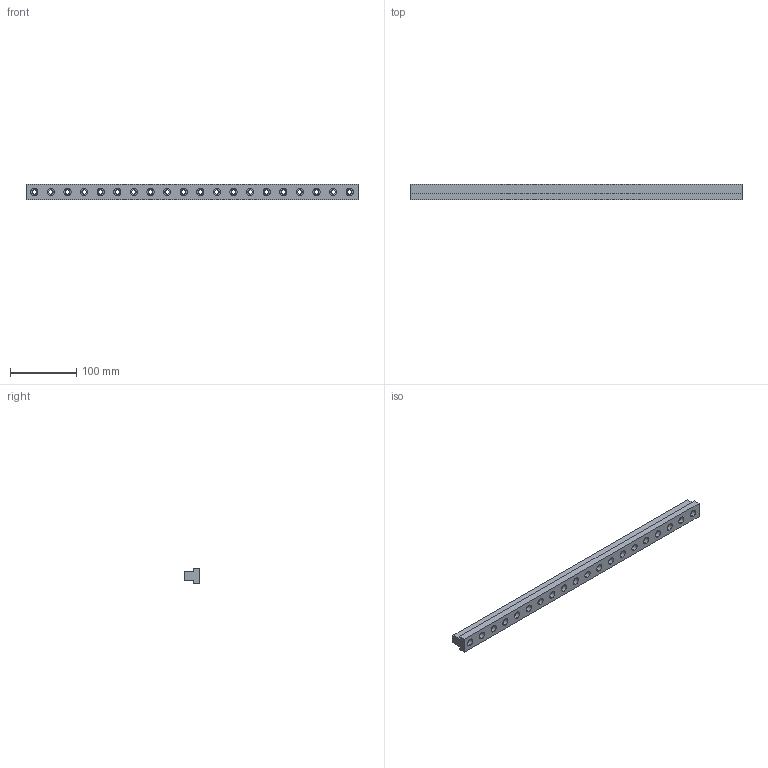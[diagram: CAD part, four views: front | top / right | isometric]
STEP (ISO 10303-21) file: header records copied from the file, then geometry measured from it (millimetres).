
FILE_DESCRIPTION(('CATIA V5 STEP Exchange'),'2;1');
FILE_NAME('C:\Users\Utente\Desktop\IO LAVORO\3D X SITO CF\X SITO\PLASTICA\CF-GT\CF-GT-14-500.stp','2021-02-21T16:16:11+00:00',('none'),('none'),'CATIA Version 5 Release 20 GA (IN-10)','CATIA V5 STEP AP203','none');
FILE_SCHEMA(('CONFIG_CONTROL_DESIGN'));
Length unit declared in the file: millimetre
Products named in the file (1): CF-GT-14-500
Bounding box: 500 x 24 x 24 mm (x, y, z)
Volume: 193306.6 mm3; surface area: 59336 mm2
Topology: 1 solids, 1 shells, 110 faces, 424 edges, 336 vertices
Faces by surface type: cylinder 80, plane 30
Entity records: 5770 total; most frequent: CARTESIAN_POINT 2191, ORIENTED_EDGE 848, DIRECTION 524, EDGE_CURVE 424, VERTEX_POINT 336, AXIS2_PLACEMENT_3D 311, CIRCLE 200, EDGE_LOOP 170
